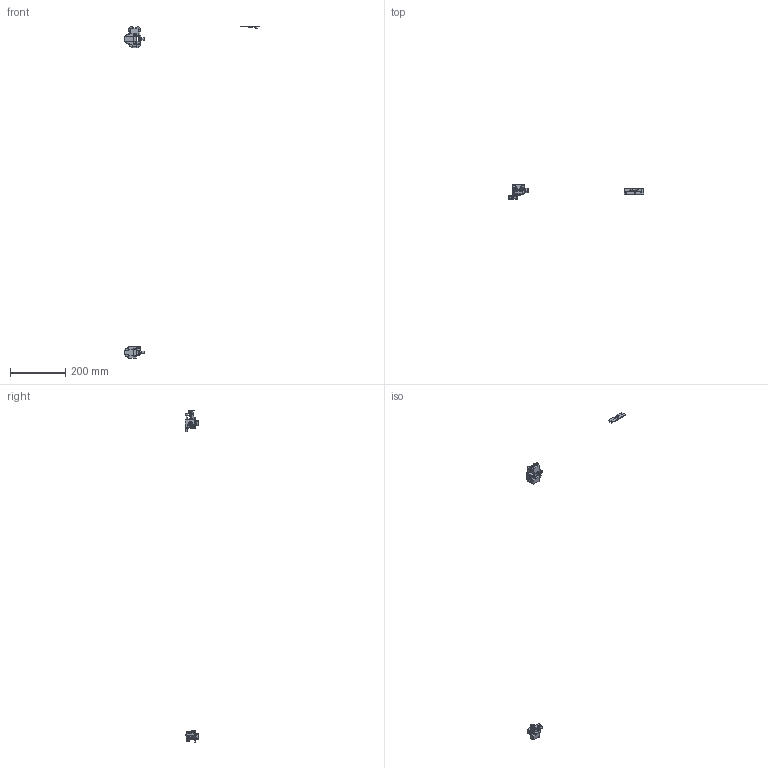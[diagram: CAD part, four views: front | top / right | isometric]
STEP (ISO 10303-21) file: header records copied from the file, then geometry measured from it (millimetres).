
FILE_DESCRIPTION( ( 'STEP AP214' ), '1' );
FILE_NAME( 'C:/Users/KOSH/Desktop/Export/Wingline L/9278004.stp', '2020-02-17T09:24:34', ( '' ), ( '' ), ' ', 'PARTsolutions', ' ' );
FILE_SCHEMA( ( 'AUTOMOTIVE_DESIGN { 1 0 10303 214 1 1 1 1 }' ) );
Length unit declared in the file: millimetre
Products named in the file (5): 9278004; _9237711; _9237484; _9236926; _9237431
Assembly tree (5 placements, depth 2):
  9278004
    _9237711
    _9237484
    _9236926  x2
    _9237431
Bounding box: 492.44 x 49.8 x 1205.5 mm (x, y, z)
Volume: 75707.8 mm3; surface area: 51415.3 mm2
Topology: 5 solids, 5 shells, 720 faces, 2092 edges, 1394 vertices
Faces by surface type: plane 495, cylinder 217, cone 6, bspline 1, torus 1
Full cylindrical faces by diameter (mm): 0.02 x1, 2 x6, 3 x2, 4 x2, 4.2 x2, 4.298 x1, 4.4 x2, 5 x3, 5.2 x4, 5.3 x2, 5.5 x1, 7 x2, 8 x4, 8.5 x1, 9 x1, 9.982 x1, 11.59 x2, 11.94 x2, 13 x2, 13.948 x1, 19 x2
Entity records: 28939 total; most frequent: CARTESIAN_POINT 4950, ORIENTED_EDGE 3876, DIRECTION 3706, EDGE_CURVE 1938, LINE 1392, VECTOR 1392, VERTEX_POINT 1321, AXIS2_PLACEMENT_3D 1157
